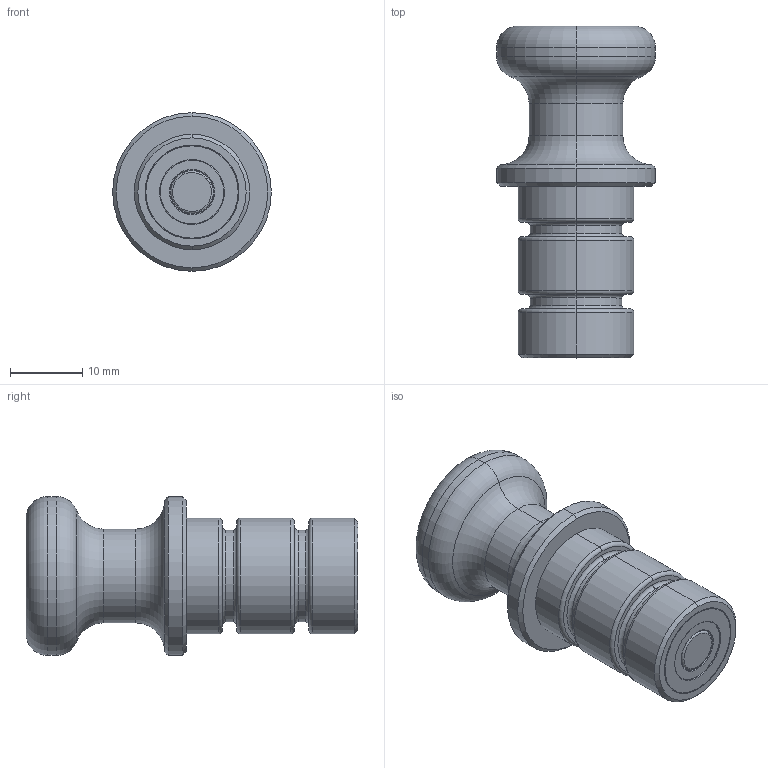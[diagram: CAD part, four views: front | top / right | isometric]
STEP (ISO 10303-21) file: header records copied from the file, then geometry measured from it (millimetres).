
FILE_DESCRIPTION (( 'STEP AP203' ), '1' );
FILE_NAME ('160740.1.step', '2014-08-11T16:34:41', ( 'User' ), ( '' ), 'SwSTEP 2.0', 'SolidWorks 2014', '' );
FILE_SCHEMA (( 'CONFIG_CONTROL_DESIGN' ));
Length unit declared in the file: millimetre
Products named in the file (3): 160740.1 Magnetbolzen; Magnet^160740.1_Produktbild; 160740.1
Assembly tree (2 placements, depth 2):
  160740.1
    160740.1 Magnetbolzen
    Magnet^160740.1_Produktbild
Bounding box: 22 x 46 x 22 mm (x, y, z)
Volume: 9823.3 mm3; surface area: 4420.8 mm2
Topology: 4 solids, 4 shells, 85 faces, 164 edges, 94 vertices
Faces by surface type: torus 36, cylinder 28, plane 15, cone 6
Entity records: 2485 total; most frequent: DIRECTION 474, CARTESIAN_POINT 348, ORIENTED_EDGE 328, AXIS2_PLACEMENT_3D 220, EDGE_CURVE 164, CIRCLE 130, VERTEX_POINT 94, EDGE_LOOP 94
